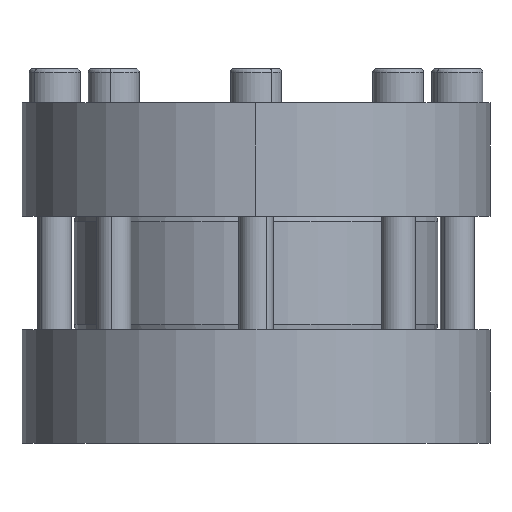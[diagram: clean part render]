
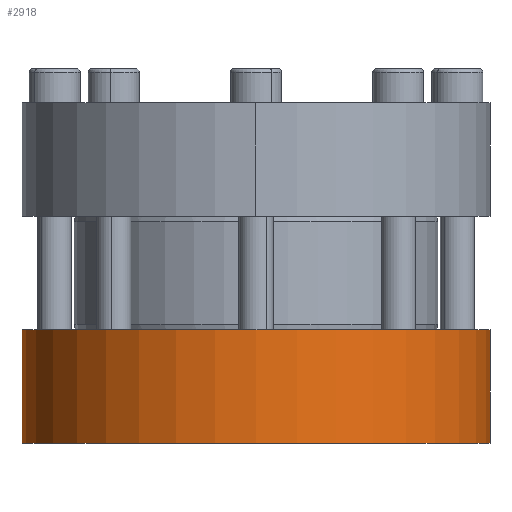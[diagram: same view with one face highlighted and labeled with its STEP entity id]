
A CAD part, front view. The second image highlights one B-rep face of the part: STEP entity #2918.
In plain terms, the highlighted cylindrical face has radius 82.5 mm (diameter 165 mm), a partial arc.
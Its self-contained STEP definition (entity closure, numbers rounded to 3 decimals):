
#181 = CIRCLE ( 'NONE', #10018, 82.5 ) ;
#210 = EDGE_CURVE ( 'NONE', #8126, #8403, #181, .T. ) ;
#516 = CARTESIAN_POINT ( 'NONE',  ( -82.5, 0., 37.998 ) ) ;
#549 = DIRECTION ( 'NONE',  ( 0., 0., 1. ) ) ;
#717 = VECTOR ( 'NONE', #4243, 1000. ) ;
#1074 = AXIS2_PLACEMENT_3D ( 'NONE', #9499, #4009, #10443 ) ;
#1100 = LINE ( 'NONE', #3923, #10592 ) ;
#1481 = VERTEX_POINT ( 'NONE', #4475 ) ;
#1491 = CARTESIAN_POINT ( 'NONE',  ( -82.5, 0., 37.998 ) ) ;
#1752 = ORIENTED_EDGE ( 'NONE', *, *, #9774, .T. ) ;
#2016 = EDGE_LOOP ( 'NONE', ( #8700, #3633, #1752, #4600 ) ) ;
#2328 = VERTEX_POINT ( 'NONE', #516 ) ;
#2918 = ADVANCED_FACE ( 'NONE', ( #5951 ), #4774, .T. ) ;
#3390 = CIRCLE ( 'NONE', #1074, 82.5 ) ;
#3633 = ORIENTED_EDGE ( 'NONE', *, *, #5592, .F. ) ;
#3923 = CARTESIAN_POINT ( 'NONE',  ( 82.5, 0., 37.998 ) ) ;
#4009 = DIRECTION ( 'NONE',  ( 0., 0., 1. ) ) ;
#4243 = DIRECTION ( 'NONE',  ( 0., 0., -1. ) ) ;
#4475 = CARTESIAN_POINT ( 'NONE',  ( 82.5, 0., 37.998 ) ) ;
#4600 = ORIENTED_EDGE ( 'NONE', *, *, #210, .T. ) ;
#4774 = CYLINDRICAL_SURFACE ( 'NONE', #11883, 82.5 ) ;
#5195 = DIRECTION ( 'NONE',  ( 0., 0., -1. ) ) ;
#5590 = CARTESIAN_POINT ( 'NONE',  ( -82.5, 0., -2.002 ) ) ;
#5592 = EDGE_CURVE ( 'NONE', #2328, #1481, #3390, .T. ) ;
#5951 = FACE_OUTER_BOUND ( 'NONE', #2016, .T. ) ;
#6041 = CARTESIAN_POINT ( 'NONE',  ( 0., 0., -2.002 ) ) ;
#6724 = EDGE_CURVE ( 'NONE', #1481, #8403, #1100, .T. ) ;
#6942 = DIRECTION ( 'NONE',  ( 1., 0., 0. ) ) ;
#7062 = DIRECTION ( 'NONE',  ( -1., 0., 0. ) ) ;
#7972 = CARTESIAN_POINT ( 'NONE',  ( 0., 0., 37.998 ) ) ;
#8126 = VERTEX_POINT ( 'NONE', #5590 ) ;
#8403 = VERTEX_POINT ( 'NONE', #11503 ) ;
#8700 = ORIENTED_EDGE ( 'NONE', *, *, #6724, .F. ) ;
#9499 = CARTESIAN_POINT ( 'NONE',  ( 0., 0., 37.998 ) ) ;
#9774 = EDGE_CURVE ( 'NONE', #2328, #8126, #10501, .T. ) ;
#10018 = AXIS2_PLACEMENT_3D ( 'NONE', #6041, #549, #6942 ) ;
#10358 = DIRECTION ( 'NONE',  ( 0., 0., -1. ) ) ;
#10443 = DIRECTION ( 'NONE',  ( 1., 0., 0. ) ) ;
#10501 = LINE ( 'NONE', #1491, #717 ) ;
#10592 = VECTOR ( 'NONE', #10358, 1000. ) ;
#11503 = CARTESIAN_POINT ( 'NONE',  ( 82.5, 0., -2.002 ) ) ;
#11883 = AXIS2_PLACEMENT_3D ( 'NONE', #7972, #5195, #7062 ) ;
